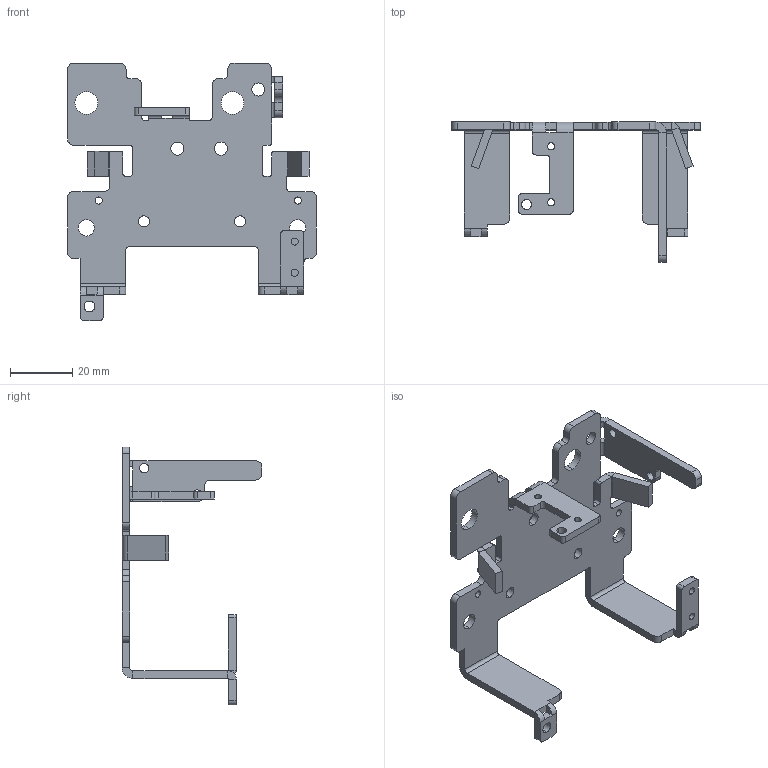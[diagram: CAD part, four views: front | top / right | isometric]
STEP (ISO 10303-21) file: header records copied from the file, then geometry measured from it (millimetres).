
FILE_DESCRIPTION (( 'STEP AP214' ), '1' );
FILE_NAME ('D26-000-001 Êðîíøòåéí ïðèíòåðà.STEP', '2023-03-30T19:02:24', ( '' ), ( '' ), 'SwSTEP 2.0', 'SolidWorks 2017', '' );
FILE_SCHEMA (( 'AUTOMOTIVE_DESIGN' ));
Length unit declared in the file: millimetre
Products named in the file (1): D26-000-001 Êðîíøòåéí ïðèíòåðà
Bounding box: 80 x 45 x 82.9 mm (x, y, z)
Volume: 14493.6 mm3; surface area: 14405.7 mm2
Topology: 1 solids, 1 shells, 228 faces, 606 edges, 372 vertices
Faces by surface type: plane 122, cylinder 106
Entity records: 7140 total; most frequent: DIRECTION 1276, ORIENTED_EDGE 1212, CARTESIAN_POINT 1207, EDGE_CURVE 606, AXIS2_PLACEMENT_3D 441, VECTOR 394, LINE 394, VERTEX_POINT 372
